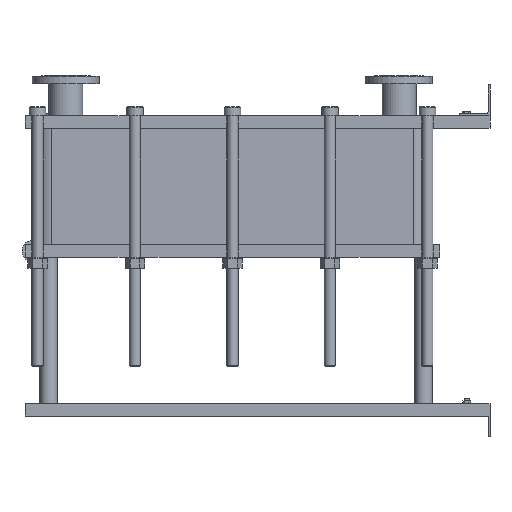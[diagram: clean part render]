
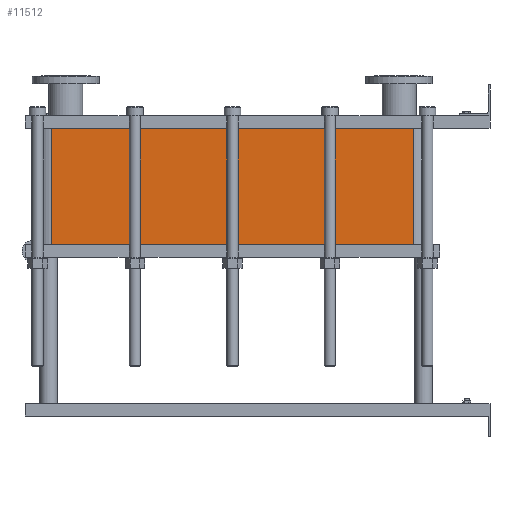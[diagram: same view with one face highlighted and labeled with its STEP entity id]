
A CAD part, left-side view. The second image highlights one B-rep face of the part: STEP entity #11512.
In plain terms, the highlighted planar face has unit normal (-1, 0, 0).
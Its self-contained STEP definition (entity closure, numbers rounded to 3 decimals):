
#1129=LINE('',#23232,#2102);
#1130=LINE('',#23236,#2103);
#1131=LINE('',#23238,#2104);
#1132=LINE('',#23239,#2105);
#2102=VECTOR('',#15887,10.);
#2103=VECTOR('',#15892,10.);
#2104=VECTOR('',#15893,10.);
#2105=VECTOR('',#15894,10.);
#3267=FACE_OUTER_BOUND('',#4093,.T.);
#4093=EDGE_LOOP('',(#10103,#10104,#10105,#10106));
#5642=VERTEX_POINT('',#23229);
#5643=VERTEX_POINT('',#23231);
#5644=VERTEX_POINT('',#23235);
#5645=VERTEX_POINT('',#23237);
#7159=EDGE_CURVE('',#5643,#5642,#1129,.T.);
#7161=EDGE_CURVE('',#5642,#5644,#1130,.T.);
#7162=EDGE_CURVE('',#5645,#5644,#1131,.T.);
#7163=EDGE_CURVE('',#5645,#5643,#1132,.T.);
#10103=ORIENTED_EDGE('',*,*,#7161,.T.);
#10104=ORIENTED_EDGE('',*,*,#7162,.F.);
#10105=ORIENTED_EDGE('',*,*,#7163,.T.);
#10106=ORIENTED_EDGE('',*,*,#7159,.T.);
#10857=PLANE('',#12751);
#11512=ADVANCED_FACE('',(#3267),#10857,.T.);
#12751=AXIS2_PLACEMENT_3D('',#23234,#15890,#15891);
#15887=DIRECTION('',(0.,0.,-1.));
#15890=DIRECTION('center_axis',(-1.,0.,0.));
#15891=DIRECTION('ref_axis',(0.,1.,0.));
#15892=DIRECTION('',(0.,-1.,0.));
#15893=DIRECTION('',(0.,0.,-1.));
#15894=DIRECTION('',(0.,1.,0.));
#23229=CARTESIAN_POINT('',(-200.,1414.,-376.05));
#23231=CARTESIAN_POINT('',(-200.,1414.,0.));
#23232=CARTESIAN_POINT('',(-200.,1414.,0.));
#23234=CARTESIAN_POINT('Origin',(-200.,248.,0.));
#23235=CARTESIAN_POINT('',(-200.,248.,-376.05));
#23236=CARTESIAN_POINT('',(-200.,539.5,-376.05));
#23237=CARTESIAN_POINT('',(-200.,248.,0.));
#23238=CARTESIAN_POINT('',(-200.,248.,0.));
#23239=CARTESIAN_POINT('',(-200.,248.,0.));
